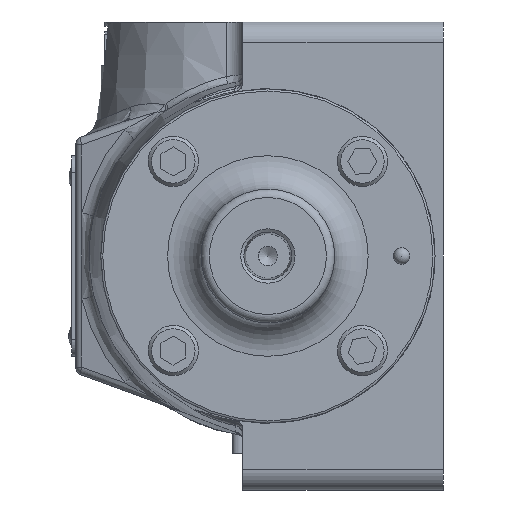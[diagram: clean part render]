
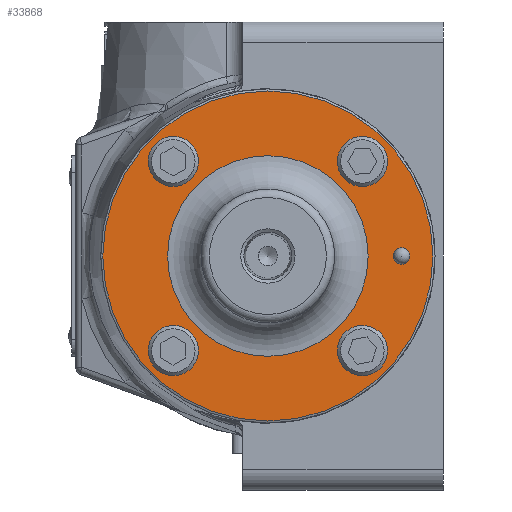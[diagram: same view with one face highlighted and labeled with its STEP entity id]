
A CAD part, left-side view. The second image highlights one B-rep face of the part: STEP entity #33868.
In plain terms, the highlighted planar face has unit normal (-1, 0, 0).
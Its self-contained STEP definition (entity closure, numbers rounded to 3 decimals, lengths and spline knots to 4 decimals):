
#2144=FACE_BOUND('',#11108,.T.);
#2145=FACE_BOUND('',#11109,.T.);
#2146=FACE_BOUND('',#11110,.T.);
#2147=FACE_BOUND('',#11111,.T.);
#2148=FACE_BOUND('',#11112,.T.);
#2149=FACE_BOUND('',#11113,.T.);
#2801=CIRCLE('',#36240,3.1353);
#2802=CIRCLE('',#36241,0.4763);
#2803=CIRCLE('',#36242,0.4763);
#2804=CIRCLE('',#36243,0.4763);
#2805=CIRCLE('',#36244,0.4763);
#2806=CIRCLE('',#36245,0.1588);
#2807=CIRCLE('',#36246,1.905);
#8818=FACE_OUTER_BOUND('',#11107,.T.);
#11107=EDGE_LOOP('',(#22073));
#11108=EDGE_LOOP('',(#22074));
#11109=EDGE_LOOP('',(#22075));
#11110=EDGE_LOOP('',(#22076));
#11111=EDGE_LOOP('',(#22077));
#11112=EDGE_LOOP('',(#22078));
#11113=EDGE_LOOP('',(#22079));
#13814=VERTEX_POINT('',#49763);
#13815=VERTEX_POINT('',#49765);
#13816=VERTEX_POINT('',#49767);
#13817=VERTEX_POINT('',#49769);
#13818=VERTEX_POINT('',#49771);
#13819=VERTEX_POINT('',#49773);
#13820=VERTEX_POINT('',#49775);
#16994=EDGE_CURVE('',#13814,#13814,#2801,.T.);
#16995=EDGE_CURVE('',#13815,#13815,#2802,.T.);
#16996=EDGE_CURVE('',#13816,#13816,#2803,.T.);
#16997=EDGE_CURVE('',#13817,#13817,#2804,.T.);
#16998=EDGE_CURVE('',#13818,#13818,#2805,.T.);
#16999=EDGE_CURVE('',#13819,#13819,#2806,.T.);
#17000=EDGE_CURVE('',#13820,#13820,#2807,.T.);
#22073=ORIENTED_EDGE('',*,*,#16994,.F.);
#22074=ORIENTED_EDGE('',*,*,#16995,.T.);
#22075=ORIENTED_EDGE('',*,*,#16996,.T.);
#22076=ORIENTED_EDGE('',*,*,#16997,.T.);
#22077=ORIENTED_EDGE('',*,*,#16998,.T.);
#22078=ORIENTED_EDGE('',*,*,#16999,.T.);
#22079=ORIENTED_EDGE('',*,*,#17000,.F.);
#30818=PLANE('',#36239);
#33868=ADVANCED_FACE('',(#8818,#2144,#2145,#2146,#2147,#2148,#2149),#30818,
 .F.);
#36239=AXIS2_PLACEMENT_3D('',#49762,#40192,#40193);
#36240=AXIS2_PLACEMENT_3D('',#49764,#40194,#40195);
#36241=AXIS2_PLACEMENT_3D('',#49766,#40196,#40197);
#36242=AXIS2_PLACEMENT_3D('',#49768,#40198,#40199);
#36243=AXIS2_PLACEMENT_3D('',#49770,#40200,#40201);
#36244=AXIS2_PLACEMENT_3D('',#49772,#40202,#40203);
#36245=AXIS2_PLACEMENT_3D('',#49774,#40204,#40205);
#36246=AXIS2_PLACEMENT_3D('',#49776,#40206,#40207);
#40192=DIRECTION('center_axis',(1.,0.,0.));
#40193=DIRECTION('ref_axis',(0.,0.,-1.));
#40194=DIRECTION('center_axis',(1.,0.,0.));
#40195=DIRECTION('ref_axis',(0.,0.,
-1.));
#40196=DIRECTION('center_axis',(1.,0.,0.));
#40197=DIRECTION('ref_axis',(0.,-0.004,
-1.));
#40198=DIRECTION('center_axis',(1.,0.,0.));
#40199=DIRECTION('ref_axis',(0.,-1.,-0.02));
#40200=DIRECTION('center_axis',(1.,0.,0.));
#40201=DIRECTION('ref_axis',(0.,-0.488,-0.873));
#40202=DIRECTION('center_axis',(1.,0.,0.));
#40203=DIRECTION('ref_axis',(0.,-0.2,-0.98));
#40204=DIRECTION('center_axis',(1.,0.,0.));
#40205=DIRECTION('ref_axis',(0.,0.,
-1.));
#40206=DIRECTION('center_axis',(-1.,0.,0.));
#40207=DIRECTION('ref_axis',(0.,0.,
-1.));
#49762=CARTESIAN_POINT('Origin',(-6.1074,0.,0.));
#49763=CARTESIAN_POINT('',(-6.1074,0.,3.1353));
#49764=CARTESIAN_POINT('Origin',(-6.1074,0.,0.));
#49765=CARTESIAN_POINT('',(-6.1074,-1.7941,2.2723));
#49766=CARTESIAN_POINT('Origin',(-6.1074,-1.7961,1.7961));
#49767=CARTESIAN_POINT('',(-6.1074,2.2722,-1.7864));
#49768=CARTESIAN_POINT('Origin',(-6.1074,1.7961,-1.7961));
#49769=CARTESIAN_POINT('',(-6.1074,2.0283,2.2119));
#49770=CARTESIAN_POINT('Origin',(-6.1074,1.7961,1.7961));
#49771=CARTESIAN_POINT('',(-6.1074,-1.7009,-1.3294));
#49772=CARTESIAN_POINT('Origin',(-6.1074,-1.7961,-1.7961));
#49773=CARTESIAN_POINT('',(-6.1074,-2.54,0.1587));
#49774=CARTESIAN_POINT('Origin',(-6.1074,-2.54,0.));
#49775=CARTESIAN_POINT('',(-6.1074,0.,1.905));
#49776=CARTESIAN_POINT('Origin',(-6.1074,0.,0.));
